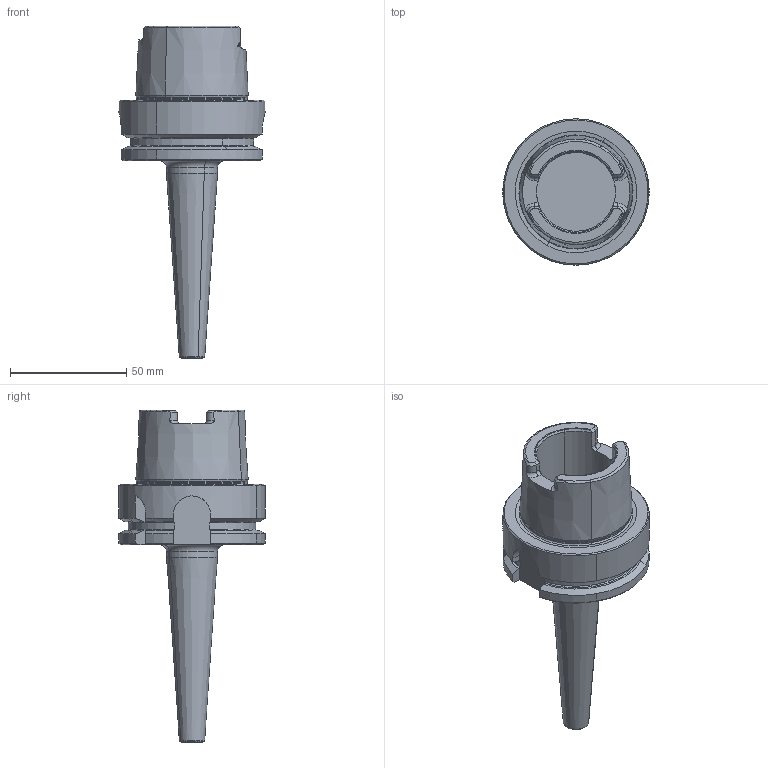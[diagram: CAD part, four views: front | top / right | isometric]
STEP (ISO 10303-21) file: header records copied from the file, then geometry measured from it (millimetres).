
FILE_DESCRIPTION(('CATIA V5 STEP','CAx-IF Rec.Pracs.--- Model Styling and Organization---1.2---2011-12-15'),'2;1');
FILE_NAME('\\nas01\drv1\utils\eitdev\rte\eit\transmagicconvert\db\out\4504447 L.stp','2014-03-23T10:25:00+00:00',('none'),('none'),'CATIA Version 5 Release 21 SP 5 (IN-10)','CATIA V5 STEP AP214','none');
FILE_SCHEMA(('AUTOMOTIVE_DESIGN { 1 0 10303 214 1 1 1 1 }'));
Length unit declared in the file: millimetre
Products named in the file (1): 60917812_0 Assembly HSK A 63 SRK 6X 85 
Bounding box: 63 x 63 x 143 mm (x, y, z)
Volume: 110556.8 mm3; surface area: 25023.2 mm2
Topology: 1 solids, 1 shells, 136 faces, 351 edges, 220 vertices
Faces by surface type: plane 41, cone 35, cylinder 32, torus 28
Entity records: 4215 total; most frequent: CARTESIAN_POINT 1281, ORIENTED_EDGE 702, DIRECTION 434, EDGE_CURVE 351, AXIS2_PLACEMENT_3D 232, VERTEX_POINT 220, CIRCLE 151, EDGE_LOOP 139
